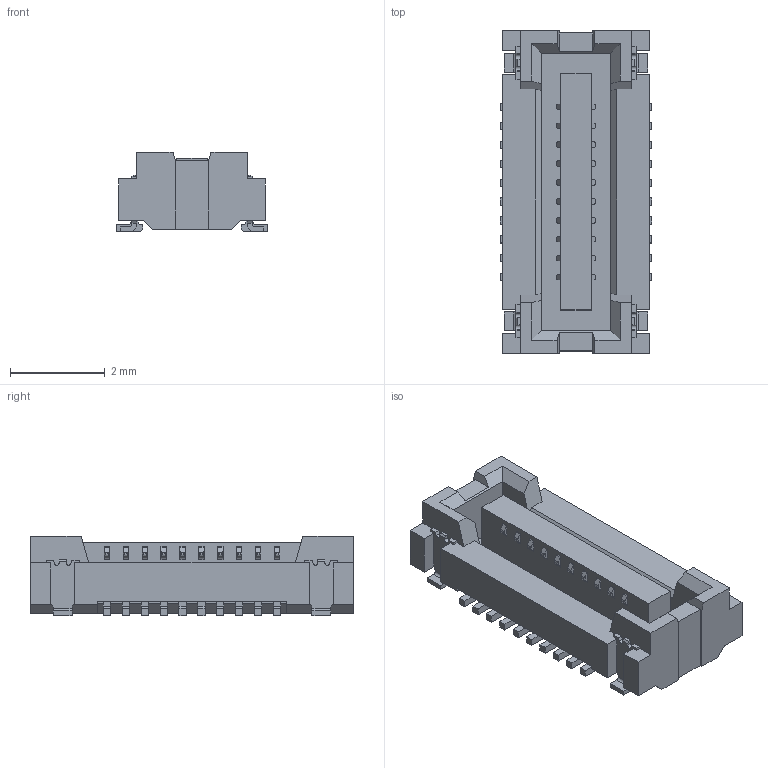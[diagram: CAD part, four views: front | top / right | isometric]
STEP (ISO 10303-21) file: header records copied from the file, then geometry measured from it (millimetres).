
FILE_DESCRIPTION((''),'2;1');
FILE_NAME('2049270201','2021-02-25T',('gga'),(''),'PRO/ENGINEER BY PARAMETRIC TECHNOLOGY CORPORATION, 2016010','PRO/ENGINEER BY PARAMETRIC TECHNOLOGY CORPORATION, 2016010','');
FILE_SCHEMA(('CONFIG_CONTROL_DESIGN'));
Length unit declared in the file: millimetre
Products named in the file (1): 2049270201
Bounding box: 3.2 x 6.81 x 1.67 mm (x, y, z)
Volume: 19.2 mm3; surface area: 106 mm2
Topology: 1 solids, 1 shells, 585 faces, 1802 edges, 1260 vertices
Faces by surface type: plane 429, cylinder 156
Entity records: 20145 total; most frequent: CARTESIAN_POINT 4002, ORIENTED_EDGE 3412, DIRECTION 3102, EDGE_CURVE 1706, VECTOR 1434, LINE 1434, VERTEX_POINT 1164, AXIS2_PLACEMENT_3D 834
